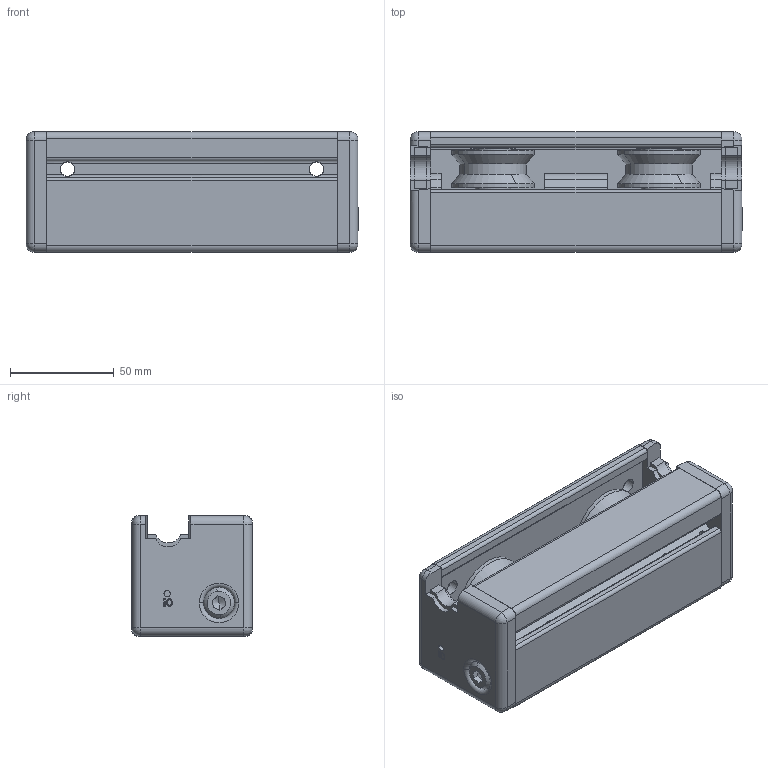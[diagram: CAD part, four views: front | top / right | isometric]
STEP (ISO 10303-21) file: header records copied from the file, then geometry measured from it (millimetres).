
FILE_DESCRIPTION (( 'STEP AP203' ), '1' );
FILE_NAME ('19188_DOP14ZKPL.STEP', '2018-05-18T09:48:53', ( '' ), ( '' ), 'SwSTEP 2.0', 'SolidWorks 2017', '' );
FILE_SCHEMA (( 'CONFIG_CONTROL_DESIGN' ));
Length unit declared in the file: millimetre
Products named in the file (9): 10061-01-0000-02; 10061-00-0000-00; 10061-01-0000-00_gespiegelt; 19188_DOP14ZKPL; ProfilLagereinhei_doppelt; 0_0_294_14_6; 0_0_294_14_5; 10061-01-0000-00; 10061-01-0000-01
Assembly tree (12 placements, depth 3):
  19188_DOP14ZKPL
    ProfilLagereinhei_doppelt
    0_0_294_14_6  x2
    0_0_294_14_5  x2
    10061-00-0000-00
      10061-01-0000-00
      10061-01-0000-01
      10061-01-0000-02
    10061-01-0000-02
    10061-01-0000-01
    10061-01-0000-00_gespiegelt
Bounding box: 160 x 58 x 58 mm (x, y, z)
Volume: 322585.9 mm3; surface area: 119973.8 mm2
Topology: 11 solids, 11 shells, 416 faces, 1083 edges, 692 vertices
Faces by surface type: plane 180, cylinder 170, cone 28, bspline 22, torus 8, sphere 8
Entity records: 13448 total; most frequent: CARTESIAN_POINT 3629, ORIENTED_EDGE 1842, DIRECTION 1813, EDGE_CURVE 921, AXIS2_PLACEMENT_3D 648, VERTEX_POINT 600, LINE 517, VECTOR 517
